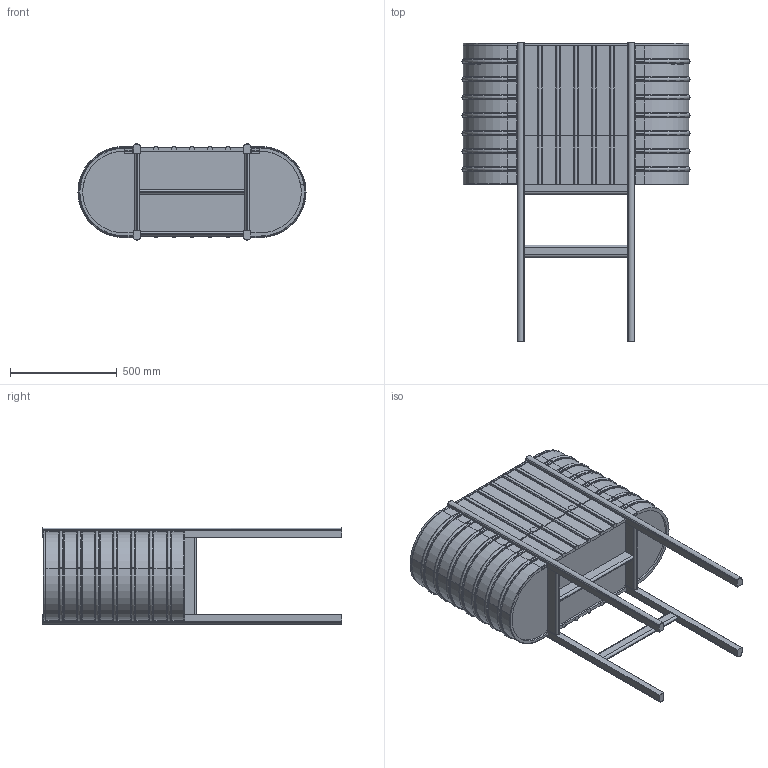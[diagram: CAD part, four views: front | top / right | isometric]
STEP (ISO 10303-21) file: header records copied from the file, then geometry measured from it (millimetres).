
FILE_DESCRIPTION (( 'STEP AP203' ), '1' );
FILE_NAME ('REPETA 01.STEP', '2020-07-09T07:21:42', ( '' ), ( '' ), 'SwSTEP 2.0', 'SolidWorks 2020', '' );
FILE_SCHEMA (( 'CONFIG_CONTROL_DESIGN' ));
Length unit declared in the file: millimetre
Products named in the file (2): REPETA 01; Group1^Repeta 01_defeature
Assembly tree (1 placements, depth 2):
  REPETA 01
    Group1^Repeta 01_defeature
Bounding box: 1066 x 1400 x 450 mm (x, y, z)
Volume: 61720128 mm3; surface area: 7160578.2 mm2
Topology: 4 solids, 4 shells, 1502 faces, 3938 edges, 2432 vertices
Faces by surface type: plane 875, cylinder 416, torus 145, cone 66
Entity records: 46632 total; most frequent: CARTESIAN_POINT 8853, DIRECTION 8030, ORIENTED_EDGE 7876, EDGE_CURVE 3938, AXIS2_PLACEMENT_3D 2683, VECTOR 2664, LINE 2664, VERTEX_POINT 2432
